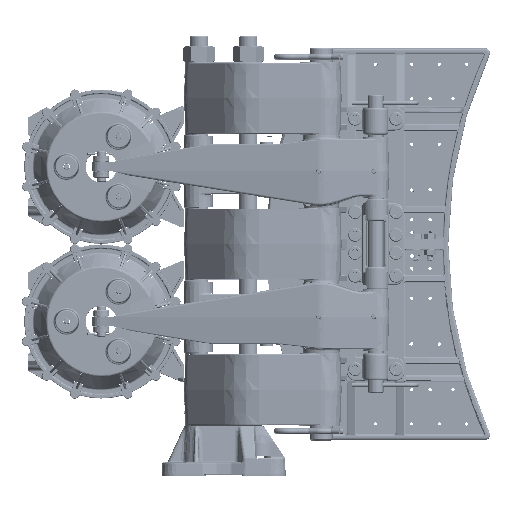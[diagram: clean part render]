
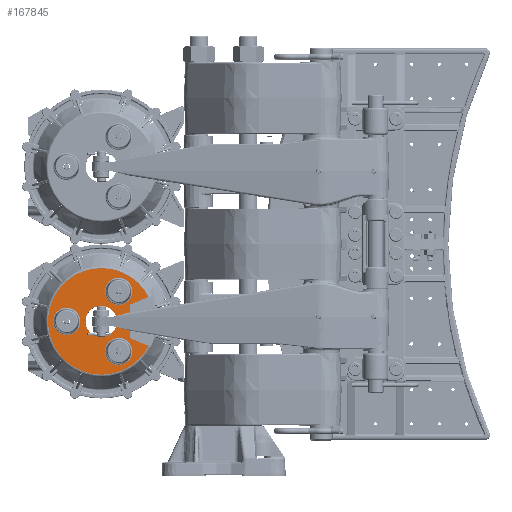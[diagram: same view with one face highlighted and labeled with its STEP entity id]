
A CAD part, top view. The second image highlights one B-rep face of the part: STEP entity #167845.
In plain terms, the highlighted planar face has unit normal (0, 0, 1).
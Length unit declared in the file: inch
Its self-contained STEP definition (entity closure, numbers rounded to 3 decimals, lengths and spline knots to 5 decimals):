
#444 = PLANE ( 'NONE',  #218701 ) ;
#2097 = DIRECTION ( 'NONE',  ( 0., 1., 0. ) ) ;
#4804 = CIRCLE ( 'NONE', #465875, 0.86273 ) ;
#6200 = EDGE_LOOP ( 'NONE', ( #181226, #82451 ) ) ;
#15106 = DIRECTION ( 'NONE',  ( 0., 1., 0. ) ) ;
#20131 = VERTEX_POINT ( 'NONE', #278085 ) ;
#29179 = DIRECTION ( 'NONE',  ( 0., -1., 0. ) ) ;
#31166 = EDGE_CURVE ( 'NONE', #318571, #428915, #392862, .T. ) ;
#35746 = CARTESIAN_POINT ( 'NONE',  ( -8.11449, -3.34796, 2.775 ) ) ;
#35805 = AXIS2_PLACEMENT_3D ( 'NONE', #473923, #244205, #15106 ) ;
#45519 = DIRECTION ( 'NONE',  ( 0.924, 0.383, 0. ) ) ;
#53814 = EDGE_CURVE ( 'NONE', #308117, #20131, #81772, .T. ) ;
#62718 = VERTEX_POINT ( 'NONE', #404330 ) ;
#66804 = VERTEX_POINT ( 'NONE', #161749 ) ;
#67629 = CARTESIAN_POINT ( 'NONE',  ( -9.06699, -4.25, 2.775 ) ) ;
#80790 = DIRECTION ( 'NONE',  ( 0., 0., -1. ) ) ;
#81772 = CIRCLE ( 'NONE', #345191, 0.74773 ) ;
#82451 = ORIENTED_EDGE ( 'NONE', *, *, #97931, .T. ) ;
#87107 = EDGE_CURVE ( 'NONE', #20131, #308117, #476742, .T. ) ;
#87727 = VERTEX_POINT ( 'NONE', #429995 ) ;
#88673 = VERTEX_POINT ( 'NONE', #94257 ) ;
#94257 = CARTESIAN_POINT ( 'NONE',  ( -9.06699, -3.38727, 2.775 ) ) ;
#95649 = DIRECTION ( 'NONE',  ( 0., 0., -1. ) ) ;
#96710 = FACE_BOUND ( 'NONE', #112741, .T. ) ;
#97632 = CARTESIAN_POINT ( 'NONE',  ( -8.11449, -5.89978, 2.775 ) ) ;
#97931 = EDGE_CURVE ( 'NONE', #475336, #171424, #214637, .T. ) ;
#104186 = CARTESIAN_POINT ( 'NONE',  ( -9.06699, -4.25, 2.775 ) ) ;
#106147 = DIRECTION ( 'NONE',  ( 0., -1., 0. ) ) ;
#112741 = EDGE_LOOP ( 'NONE', ( #256372, #153105 ) ) ;
#121208 = EDGE_CURVE ( 'NONE', #462647, #478581, #453990, .T. ) ;
#130160 = CARTESIAN_POINT ( 'NONE',  ( -10.97199, -4.99773, 2.775 ) ) ;
#130501 = LINE ( 'NONE', #421450, #334120 ) ;
#132978 = EDGE_CURVE ( 'NONE', #171424, #475336, #487156, .T. ) ;
#135610 = EDGE_CURVE ( 'NONE', #66804, #318571, #138903, .T. ) ;
#136063 = DIRECTION ( 'NONE',  ( 0., 1., 0. ) ) ;
#136950 = CIRCLE ( 'NONE', #357006, 0.86273 ) ;
#138903 = CIRCLE ( 'NONE', #445136, 2.92827 ) ;
#142588 = DIRECTION ( 'NONE',  ( 0., 1., 0. ) ) ;
#142639 = CARTESIAN_POINT ( 'NONE',  ( -8.11449, -2.60022, 2.775 ) ) ;
#143026 = DIRECTION ( 'NONE',  ( 0., -1., 0. ) ) ;
#146981 = CARTESIAN_POINT ( 'NONE',  ( -9.06699, -4.25, 2.775 ) ) ;
#153105 = ORIENTED_EDGE ( 'NONE', *, *, #484250, .T. ) ;
#161749 = CARTESIAN_POINT ( 'NONE',  ( -9.06699, -1.32173, 2.775 ) ) ;
#167845 = ADVANCED_FACE ( 'NONE', ( #96710, #198264, #492097, #210268, #390202 ), #444, .F. ) ;
#170023 = CARTESIAN_POINT ( 'NONE',  ( -6.46642, -5.59602, 2.775 ) ) ;
#171424 = VERTEX_POINT ( 'NONE', #435143 ) ;
#175845 = VERTEX_POINT ( 'NONE', #381424 ) ;
#181018 = DIRECTION ( 'NONE',  ( 0., 1., 0. ) ) ;
#181226 = ORIENTED_EDGE ( 'NONE', *, *, #132978, .T. ) ;
#185407 = DIRECTION ( 'NONE',  ( 0., 1., 0. ) ) ;
#197668 = AXIS2_PLACEMENT_3D ( 'NONE', #431403, #201771, #469851 ) ;
#198264 = FACE_BOUND ( 'NONE', #6200, .T. ) ;
#201771 = DIRECTION ( 'NONE',  ( 0., 0., -1. ) ) ;
#201967 = CIRCLE ( 'NONE', #490216, 0.74773 ) ;
#210268 = FACE_BOUND ( 'NONE', #409940, .T. ) ;
#212031 = DIRECTION ( 'NONE',  ( 0., 0., 1. ) ) ;
#212511 = EDGE_CURVE ( 'NONE', #331526, #175845, #201967, .T. ) ;
#214637 = CIRCLE ( 'NONE', #35805, 0.74773 ) ;
#215535 = EDGE_CURVE ( 'NONE', #88673, #62718, #4804, .T. ) ;
#218701 = AXIS2_PLACEMENT_3D ( 'NONE', #460855, #231211, #2097 ) ;
#222868 = CARTESIAN_POINT ( 'NONE',  ( -7.50699, -3.335, 2.775 ) ) ;
#224453 = ORIENTED_EDGE ( 'NONE', *, *, #121208, .T. ) ;
#231211 = DIRECTION ( 'NONE',  ( 0., 0., -1. ) ) ;
#235991 = CARTESIAN_POINT ( 'NONE',  ( -5.56545, -2.53079, 2.775 ) ) ;
#244205 = DIRECTION ( 'NONE',  ( 0., 0., -1. ) ) ;
#248011 = CARTESIAN_POINT ( 'NONE',  ( -8.11449, -6.64751, 2.775 ) ) ;
#256372 = ORIENTED_EDGE ( 'NONE', *, *, #215535, .T. ) ;
#256930 = AXIS2_PLACEMENT_3D ( 'NONE', #67629, #335372, #106147 ) ;
#258026 = CARTESIAN_POINT ( 'NONE',  ( -6.46642, -2.90398, 2.775 ) ) ;
#258152 = DIRECTION ( 'NONE',  ( 0., 0., 1. ) ) ;
#278085 = CARTESIAN_POINT ( 'NONE',  ( -8.11449, -1.85249, 2.775 ) ) ;
#288109 = CIRCLE ( 'NONE', #497014, 2.92827 ) ;
#297444 = ORIENTED_EDGE ( 'NONE', *, *, #212511, .T. ) ;
#305288 = EDGE_CURVE ( 'NONE', #462647, #87727, #390746, .T. ) ;
#308117 = VERTEX_POINT ( 'NONE', #35746 ) ;
#309818 = CARTESIAN_POINT ( 'NONE',  ( -10.97199, -4.25, 2.775 ) ) ;
#317295 = ORIENTED_EDGE ( 'NONE', *, *, #31166, .T. ) ;
#318571 = VERTEX_POINT ( 'NONE', #449818 ) ;
#322970 = EDGE_CURVE ( 'NONE', #428915, #87727, #130501, .T. ) ;
#324873 = CARTESIAN_POINT ( 'NONE',  ( -8.11449, -2.60022, 2.775 ) ) ;
#331526 = VERTEX_POINT ( 'NONE', #248011 ) ;
#334120 = VECTOR ( 'NONE', #458284, 39.37008 ) ;
#335372 = DIRECTION ( 'NONE',  ( 0., 0., 1. ) ) ;
#345191 = AXIS2_PLACEMENT_3D ( 'NONE', #142639, #410626, #181018 ) ;
#346568 = ORIENTED_EDGE ( 'NONE', *, *, #305288, .F. ) ;
#348416 = DIRECTION ( 'NONE',  ( 0., 1., 0. ) ) ;
#349735 = EDGE_CURVE ( 'NONE', #175845, #331526, #442272, .T. ) ;
#354650 = EDGE_CURVE ( 'NONE', #478581, #66804, #288109, .T. ) ;
#356542 = ORIENTED_EDGE ( 'NONE', *, *, #135610, .T. ) ;
#357006 = AXIS2_PLACEMENT_3D ( 'NONE', #146981, #415015, #185407 ) ;
#363314 = DIRECTION ( 'NONE',  ( 0., 1., 0. ) ) ;
#365335 = DIRECTION ( 'NONE',  ( 0., 0., -1. ) ) ;
#371994 = DIRECTION ( 'NONE',  ( 0., 0., -1. ) ) ;
#372451 = CARTESIAN_POINT ( 'NONE',  ( -7.50699, -1.46103, 2.775 ) ) ;
#373966 = EDGE_LOOP ( 'NONE', ( #224453, #449755, #356542, #317295, #442820, #346568 ) ) ;
#378733 = VECTOR ( 'NONE', #143026, 39.37008 ) ;
#381424 = CARTESIAN_POINT ( 'NONE',  ( -8.11449, -5.15204, 2.775 ) ) ;
#390202 = FACE_OUTER_BOUND ( 'NONE', #373966, .T. ) ;
#390746 = LINE ( 'NONE', #372451, #378733 ) ;
#392862 = CIRCLE ( 'NONE', #256930, 2.92827 ) ;
#398688 = ORIENTED_EDGE ( 'NONE', *, *, #349735, .T. ) ;
#404330 = CARTESIAN_POINT ( 'NONE',  ( -9.06699, -5.11273, 2.775 ) ) ;
#409940 = EDGE_LOOP ( 'NONE', ( #398688, #297444 ) ) ;
#410626 = DIRECTION ( 'NONE',  ( 0., 0., -1. ) ) ;
#415015 = DIRECTION ( 'NONE',  ( 0., 0., -1. ) ) ;
#421450 = CARTESIAN_POINT ( 'NONE',  ( -5.56545, -5.96921, 2.775 ) ) ;
#428915 = VERTEX_POINT ( 'NONE', #170023 ) ;
#429995 = CARTESIAN_POINT ( 'NONE',  ( -7.50699, -5.165, 2.775 ) ) ;
#431403 = CARTESIAN_POINT ( 'NONE',  ( -8.11449, -5.89978, 2.775 ) ) ;
#435143 = CARTESIAN_POINT ( 'NONE',  ( -10.97199, -3.50227, 2.775 ) ) ;
#441688 = CARTESIAN_POINT ( 'NONE',  ( -9.06699, -4.25, 2.775 ) ) ;
#441968 = VECTOR ( 'NONE', #45519, 39.37008 ) ;
#442272 = CIRCLE ( 'NONE', #197668, 0.74773 ) ;
#442820 = ORIENTED_EDGE ( 'NONE', *, *, #322970, .T. ) ;
#445136 = AXIS2_PLACEMENT_3D ( 'NONE', #487871, #258152, #29179 ) ;
#445658 = ORIENTED_EDGE ( 'NONE', *, *, #53814, .T. ) ;
#449755 = ORIENTED_EDGE ( 'NONE', *, *, #354650, .T. ) ;
#449818 = CARTESIAN_POINT ( 'NONE',  ( -9.06699, -7.17827, 2.775 ) ) ;
#453990 = LINE ( 'NONE', #235991, #441968 ) ;
#458284 = DIRECTION ( 'NONE',  ( -0.924, 0.383, 0. ) ) ;
#460855 = CARTESIAN_POINT ( 'NONE',  ( -6.13872, -4.25, 2.775 ) ) ;
#462647 = VERTEX_POINT ( 'NONE', #222868 ) ;
#465875 = AXIS2_PLACEMENT_3D ( 'NONE', #104186, #371994, #142588 ) ;
#468196 = ORIENTED_EDGE ( 'NONE', *, *, #87107, .T. ) ;
#469851 = DIRECTION ( 'NONE',  ( 0., 1., 0. ) ) ;
#472962 = AXIS2_PLACEMENT_3D ( 'NONE', #324873, #95649, #363314 ) ;
#473923 = CARTESIAN_POINT ( 'NONE',  ( -10.97199, -4.25, 2.775 ) ) ;
#475336 = VERTEX_POINT ( 'NONE', #130160 ) ;
#476742 = CIRCLE ( 'NONE', #472962, 0.74773 ) ;
#478581 = VERTEX_POINT ( 'NONE', #258026 ) ;
#478682 = EDGE_LOOP ( 'NONE', ( #468196, #445658 ) ) ;
#478763 = AXIS2_PLACEMENT_3D ( 'NONE', #309818, #80790, #348416 ) ;
#480164 = DIRECTION ( 'NONE',  ( 0., -1., 0. ) ) ;
#484250 = EDGE_CURVE ( 'NONE', #62718, #88673, #136950, .T. ) ;
#487156 = CIRCLE ( 'NONE', #478763, 0.74773 ) ;
#487871 = CARTESIAN_POINT ( 'NONE',  ( -9.06699, -4.25, 2.775 ) ) ;
#490216 = AXIS2_PLACEMENT_3D ( 'NONE', #97632, #365335, #136063 ) ;
#492097 = FACE_BOUND ( 'NONE', #478682, .T. ) ;
#497014 = AXIS2_PLACEMENT_3D ( 'NONE', #441688, #212031, #480164 ) ;
